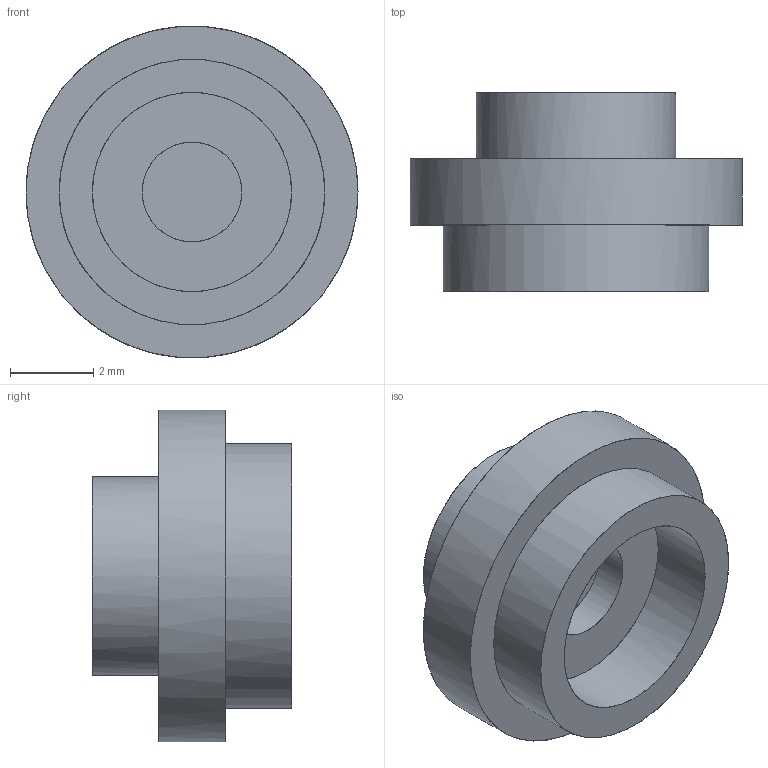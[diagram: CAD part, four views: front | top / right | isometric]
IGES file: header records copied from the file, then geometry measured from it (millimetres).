
Start section: C
Global section: file name: Trans_3005740_JC.iges; native system: By Siemens PLM Incorporated; preprocessor: XPlus GENERIC/IGES 26.1.183; author: Author; organization: Title; date: 20250722.000542; units: millimetre
Bounding box: 8 x 4.8 x 7.99 mm (x, y, z)
Surface area: 227.4 mm2 (no closed solid volume)
Topology: 0 solids, 0 shells, 11 faces, 50 edges, 50 vertices
Faces by surface type: bspline 11
